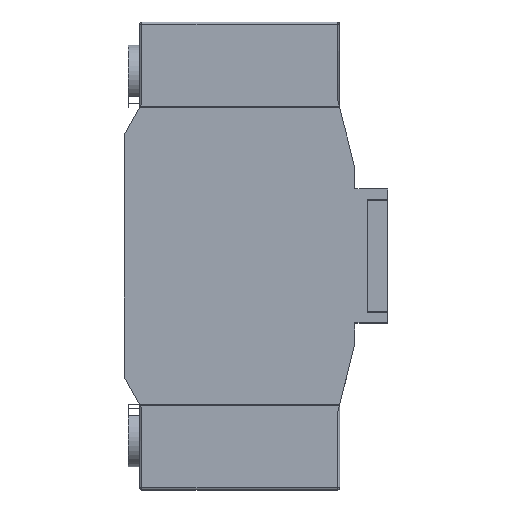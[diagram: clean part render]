
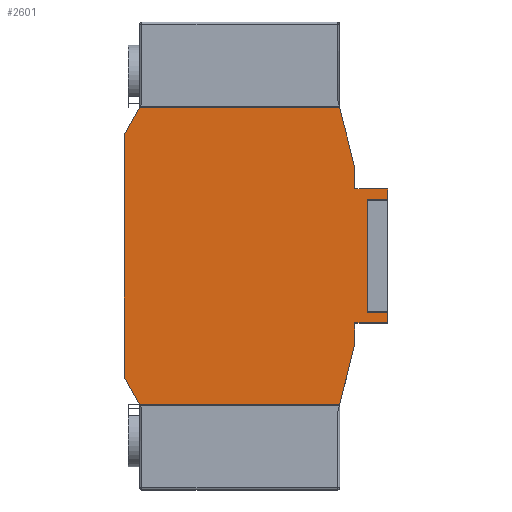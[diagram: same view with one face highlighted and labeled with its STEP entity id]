
A CAD part, top view. The second image highlights one B-rep face of the part: STEP entity #2601.
In plain terms, the highlighted planar face has unit normal (0, 0, 1).
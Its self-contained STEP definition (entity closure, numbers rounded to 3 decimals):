
#422=DIRECTION('',(-0.243,0.97,0.));
#423=VECTOR('',#422,8.452);
#424=CARTESIAN_POINT('',(15.5,11.75,12.5));
#425=LINE('',#424,#423);
#461=DIRECTION('',(0.,-1.,0.));
#462=VECTOR('',#461,32.6);
#463=CARTESIAN_POINT('',(-15.5,16.3,12.5));
#464=LINE('',#463,#462);
#465=DIRECTION('',(1.,0.,0.));
#466=VECTOR('',#465,26.9);
#467=CARTESIAN_POINT('',(-13.45,19.95,12.5));
#468=LINE('',#467,#466);
#469=DIRECTION('',(0.,1.,0.));
#470=VECTOR('',#469,2.75);
#471=CARTESIAN_POINT('',(15.5,9.,12.5));
#472=LINE('',#471,#470);
#473=DIRECTION('',(-1.,0.,0.));
#474=VECTOR('',#473,4.4);
#475=CARTESIAN_POINT('',(19.9,9.,12.5));
#476=LINE('',#475,#474);
#477=DIRECTION('',(0.,1.,0.));
#478=VECTOR('',#477,1.4);
#479=CARTESIAN_POINT('',(19.9,7.6,12.5));
#480=LINE('',#479,#478);
#481=DIRECTION('',(-1.,0.,0.));
#482=VECTOR('',#481,2.7);
#483=CARTESIAN_POINT('',(19.9,7.6,12.5));
#484=LINE('',#483,#482);
#485=DIRECTION('',(0.,1.,0.));
#486=VECTOR('',#485,15.2);
#487=CARTESIAN_POINT('',(17.2,-7.6,12.5));
#488=LINE('',#487,#486);
#489=DIRECTION('',(1.,0.,0.));
#490=VECTOR('',#489,2.7);
#491=CARTESIAN_POINT('',(17.2,-7.6,12.5));
#492=LINE('',#491,#490);
#493=DIRECTION('',(0.,1.,0.));
#494=VECTOR('',#493,1.4);
#495=CARTESIAN_POINT('',(19.9,-9.,12.5));
#496=LINE('',#495,#494);
#497=DIRECTION('',(1.,0.,0.));
#498=VECTOR('',#497,4.4);
#499=CARTESIAN_POINT('',(15.5,-9.,12.5));
#500=LINE('',#499,#498);
#501=DIRECTION('',(0.,1.,0.));
#502=VECTOR('',#501,2.75);
#503=CARTESIAN_POINT('',(15.5,-11.75,12.5));
#504=LINE('',#503,#502);
#505=DIRECTION('',(-1.,0.,0.));
#506=VECTOR('',#505,26.9);
#507=CARTESIAN_POINT('',(13.45,-19.95,12.5));
#508=LINE('',#507,#506);
#549=DIRECTION('',(0.49,-0.872,0.));
#550=VECTOR('',#549,4.186);
#551=CARTESIAN_POINT('',(-15.5,-16.3,12.5));
#552=LINE('',#551,#550);
#597=DIRECTION('',(0.243,0.97,0.));
#598=VECTOR('',#597,8.452);
#599=CARTESIAN_POINT('',(13.45,-19.95,12.5));
#600=LINE('',#599,#598);
#993=DIRECTION('',(-0.49,-0.872,0.));
#994=VECTOR('',#993,4.186);
#995=CARTESIAN_POINT('',(-13.45,19.95,12.5));
#996=LINE('',#995,#994);
#1484=CARTESIAN_POINT('',(15.5,-11.75,12.5));
#1485=CARTESIAN_POINT('',(15.5,-9.,12.5));
#1486=VERTEX_POINT('',#1484);
#1487=VERTEX_POINT('',#1485);
#1488=CARTESIAN_POINT('',(19.9,-9.,12.5));
#1489=VERTEX_POINT('',#1488);
#1490=CARTESIAN_POINT('',(19.9,-7.6,12.5));
#1491=VERTEX_POINT('',#1490);
#1492=CARTESIAN_POINT('',(17.2,-7.6,12.5));
#1493=VERTEX_POINT('',#1492);
#1494=CARTESIAN_POINT('',(17.2,7.6,12.5));
#1495=VERTEX_POINT('',#1494);
#1496=CARTESIAN_POINT('',(19.9,7.6,12.5));
#1497=VERTEX_POINT('',#1496);
#1498=CARTESIAN_POINT('',(19.9,9.,12.5));
#1499=VERTEX_POINT('',#1498);
#1500=CARTESIAN_POINT('',(15.5,9.,12.5));
#1501=VERTEX_POINT('',#1500);
#1502=CARTESIAN_POINT('',(15.5,11.75,12.5));
#1503=VERTEX_POINT('',#1502);
#1504=CARTESIAN_POINT('',(-15.5,16.3,12.5));
#1505=CARTESIAN_POINT('',(-15.5,-16.3,12.5));
#1506=VERTEX_POINT('',#1504);
#1507=VERTEX_POINT('',#1505);
#1736=CARTESIAN_POINT('',(-13.45,-19.95,12.5));
#1737=VERTEX_POINT('',#1736);
#1742=CARTESIAN_POINT('',(13.45,-19.95,12.5));
#1743=VERTEX_POINT('',#1742);
#1744=CARTESIAN_POINT('',(13.45,19.95,12.5));
#1745=VERTEX_POINT('',#1744);
#1750=CARTESIAN_POINT('',(-13.45,19.95,12.5));
#1751=VERTEX_POINT('',#1750);
#2566=CARTESIAN_POINT('',(0.,0.,12.5));
#2567=DIRECTION('',(0.,0.,1.));
#2568=DIRECTION('',(1.,0.,0.));
#2569=AXIS2_PLACEMENT_3D('',#2566,#2567,#2568);
#2570=PLANE('',#2569);
#2572=ORIENTED_EDGE('',*,*,#2571,.F.);
#2574=ORIENTED_EDGE('',*,*,#2573,.F.);
#2576=ORIENTED_EDGE('',*,*,#2575,.F.);
#2578=ORIENTED_EDGE('',*,*,#2577,.T.);
#2579=ORIENTED_EDGE('',*,*,#2492,.F.);
#2580=ORIENTED_EDGE('',*,*,#2532,.F.);
#2581=ORIENTED_EDGE('',*,*,#2546,.F.);
#2582=ORIENTED_EDGE('',*,*,#2560,.F.);
#2584=ORIENTED_EDGE('',*,*,#2583,.T.);
#2586=ORIENTED_EDGE('',*,*,#2585,.F.);
#2588=ORIENTED_EDGE('',*,*,#2587,.T.);
#2590=ORIENTED_EDGE('',*,*,#2589,.F.);
#2592=ORIENTED_EDGE('',*,*,#2591,.F.);
#2594=ORIENTED_EDGE('',*,*,#2593,.F.);
#2596=ORIENTED_EDGE('',*,*,#2595,.F.);
#2598=ORIENTED_EDGE('',*,*,#2597,.T.);
#2599=EDGE_LOOP('',(#2572,#2574,#2576,#2578,#2579,#2580,#2581,#2582,#2584,#2586,
#2588,#2590,#2592,#2594,#2596,#2598));
#2600=FACE_OUTER_BOUND('',#2599,.F.);
#2601=ADVANCED_FACE('',(#2600),#2570,.T.);
#2492=EDGE_CURVE('',#1503,#1745,#425,.T.);
#2532=EDGE_CURVE('',#1501,#1503,#472,.T.);
#2546=EDGE_CURVE('',#1499,#1501,#476,.T.);
#2560=EDGE_CURVE('',#1497,#1499,#480,.T.);
#2571=EDGE_CURVE('',#1507,#1737,#552,.T.);
#2573=EDGE_CURVE('',#1506,#1507,#464,.T.);
#2575=EDGE_CURVE('',#1751,#1506,#996,.T.);
#2577=EDGE_CURVE('',#1751,#1745,#468,.T.);
#2583=EDGE_CURVE('',#1497,#1495,#484,.T.);
#2585=EDGE_CURVE('',#1493,#1495,#488,.T.);
#2587=EDGE_CURVE('',#1493,#1491,#492,.T.);
#2589=EDGE_CURVE('',#1489,#1491,#496,.T.);
#2591=EDGE_CURVE('',#1487,#1489,#500,.T.);
#2593=EDGE_CURVE('',#1486,#1487,#504,.T.);
#2595=EDGE_CURVE('',#1743,#1486,#600,.T.);
#2597=EDGE_CURVE('',#1743,#1737,#508,.T.);
